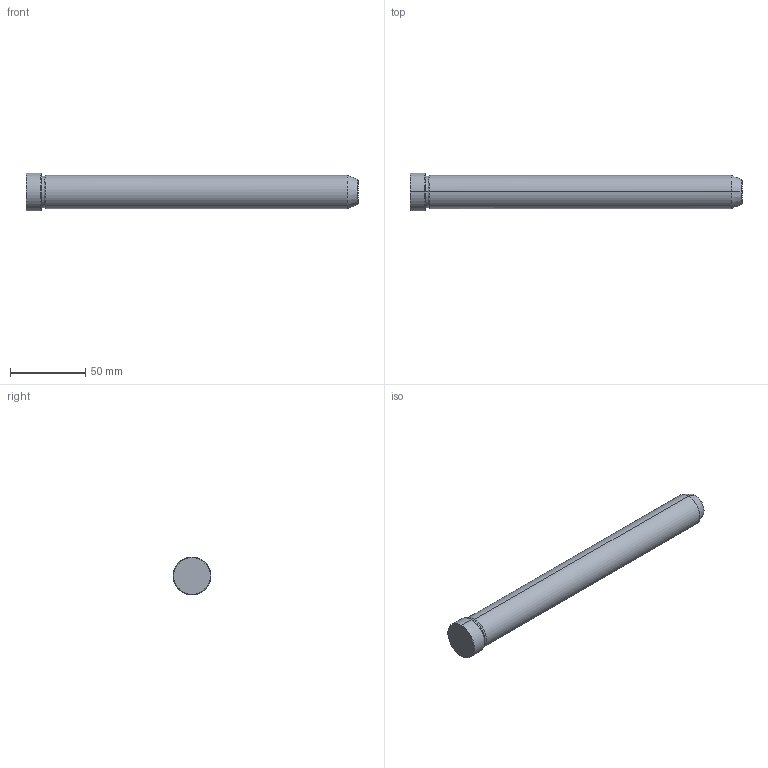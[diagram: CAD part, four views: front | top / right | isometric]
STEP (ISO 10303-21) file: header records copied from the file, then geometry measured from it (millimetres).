
FILE_DESCRIPTION(('CATIA V5 STEP Exchange'),'2;1');
FILE_NAME('C:\Users\Utente\Desktop\IO LAVORO\3D X SITO CF\X SITO\PLASTICA\549\549-22X220.stp','2021-12-13T12:55:42+00:00',('none'),('none'),'CATIA Version 5 Release 20 GA (IN-10)','CATIA V5 STEP AP203','none');
FILE_SCHEMA(('CONFIG_CONTROL_DESIGN'));
Length unit declared in the file: millimetre
Products named in the file (1): 549-22X220
Bounding box: 220 x 25 x 25 mm (x, y, z)
Volume: 84017.7 mm3; surface area: 16080.7 mm2
Topology: 1 solids, 1 shells, 19 faces, 56 edges, 40 vertices
Faces by surface type: cone 8, cylinder 6, plane 3, torus 2
Entity records: 736 total; most frequent: CARTESIAN_POINT 192, ORIENTED_EDGE 112, DIRECTION 86, EDGE_CURVE 56, AXIS2_PLACEMENT_3D 54, VERTEX_POINT 40, CIRCLE 34, EDGE_LOOP 20
